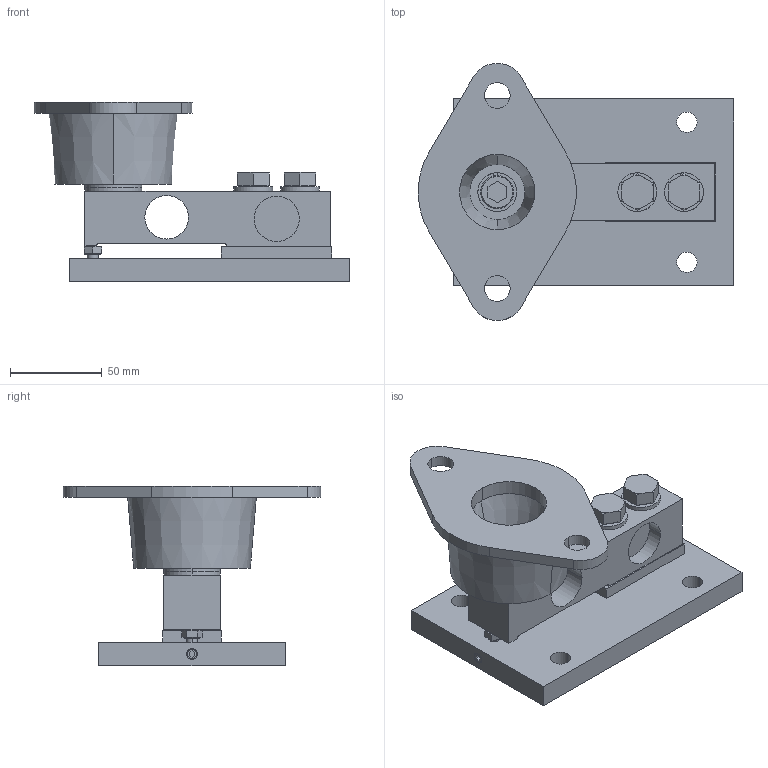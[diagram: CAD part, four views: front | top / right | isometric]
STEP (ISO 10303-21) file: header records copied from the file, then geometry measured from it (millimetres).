
FILE_DESCRIPTION((''),'2;1');
FILE_NAME('CAD3D_SWB220_0500LB','2017-05-31T',('li-383'),(''),'PRO/ENGINEER BY PARAMETRIC TECHNOLOGY CORPORATION, 2016240','PRO/ENGINEER BY PARAMETRIC TECHNOLOGY CORPORATION, 2016240','');
FILE_SCHEMA(('CONFIG_CONTROL_DESIGN'));
Length unit declared in the file: millimetre
Products named in the file (1): CAD3D_SWB220_0500LB
Bounding box: 171.44 x 140 x 97.6 mm (x, y, z)
Surface area: 98955.7 mm2 (no closed solid volume)
Topology: 0 solids, 18 shells, 199 faces, 517 edges, 344 vertices
Faces by surface type: plane 104, cylinder 62, cone 32, torus 1
Entity records: 6321 total; most frequent: CARTESIAN_POINT 1331, DIRECTION 1065, ORIENTED_EDGE 950, EDGE_CURVE 517, AXIS2_PLACEMENT_3D 407, VERTEX_POINT 346, VECTOR 251, LINE 251
